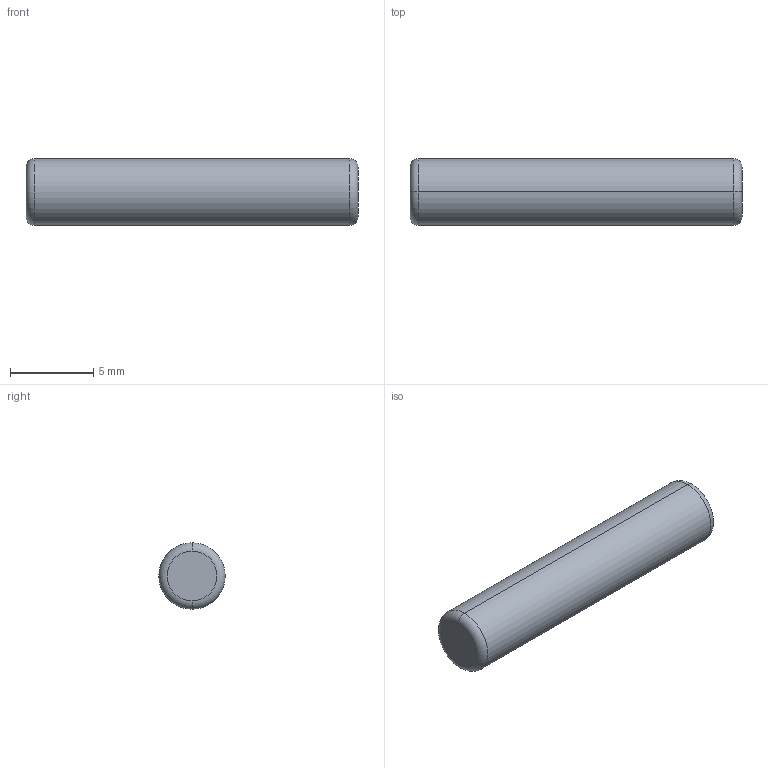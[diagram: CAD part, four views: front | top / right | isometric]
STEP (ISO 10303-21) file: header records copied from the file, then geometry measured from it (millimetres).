
FILE_DESCRIPTION (( 'STEP AP214' ), '1' );
FILE_NAME ('PAS-4x20.STEP', '2020-06-22T10:35:09', ( 'August' ), ( '' ), 'SwSTEP 2.0', 'SolidWorks 2018', '' );
FILE_SCHEMA (( 'AUTOMOTIVE_DESIGN' ));
Length unit declared in the file: millimetre
Products named in the file (1): PAS-4x20
Bounding box: 20 x 4 x 4 mm (x, y, z)
Volume: 250.1 mm3; surface area: 270.8 mm2
Topology: 1 solids, 1 shells, 8 faces, 14 edges, 8 vertices
Faces by surface type: torus 4, cylinder 2, plane 2
Entity records: 232 total; most frequent: DIRECTION 44, CARTESIAN_POINT 31, ORIENTED_EDGE 28, AXIS2_PLACEMENT_3D 21, EDGE_CURVE 14, CIRCLE 12, ADVANCED_FACE 8, VERTEX_POINT 8
